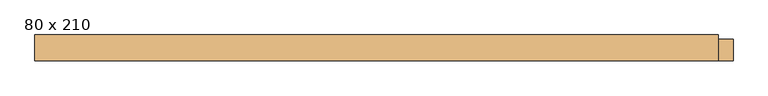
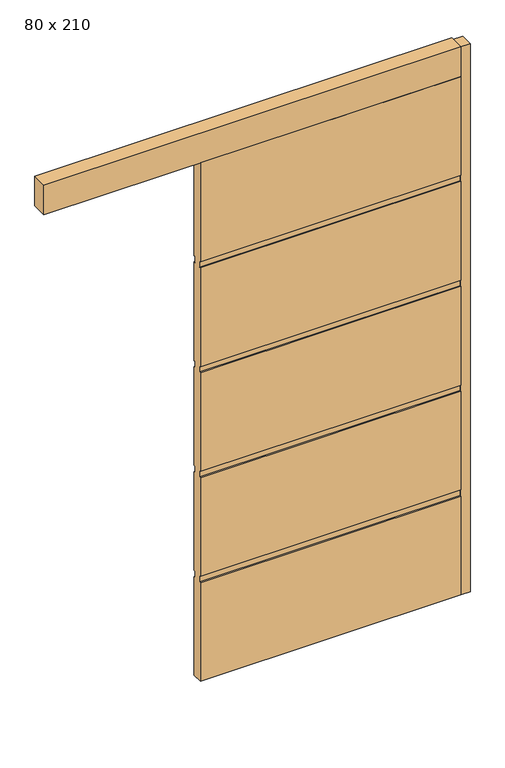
"""IFC4 building model written with IfcOpenShell, lengths in millimetres: door geometry, PORTA DE CORRER EM TRILHO LATERAL - 1 FOLHA : 80 x 210."""

from ifc_helpers import new_model, si_unit, frame, origin, origin_with_axes, place, context, project, spatial, polyline, outline, extrude, source, transform, mapped, element, save


def door_80_x_210_30b18d09(model_context):
    return source(origin(), model_context, "Body", "SweptSolid", [
        extrude(outline(polyline([(115.0, 2100.0), (115.0, 1700.0), (110.0, 1700.0), (110.0, 1675.0), (115.0, 1675.0), (115.0, 1275.0), (110.0, 1275.0), (110.0, 1250.0), (115.0, 1250.0), (115.0, 850.0), (110.0, 850.0), (110.0, 825.0), (115.0, 825.0), (115.0, 425.0), (110.0, 425.0), (110.0, 400.0), (115.0, 400.0), (115.0, 0.0), (75.0, 0.0), (75.0, 400.0), (80.0, 400.0), (80.0, 425.0), (75.0, 425.0), (75.0, 825.0), (80.0, 825.0), (80.0, 850.0), (75.0, 850.0), (75.0, 1250.0), (80.0, 1250.0), (80.0, 1275.0), (75.0, 1275.0), (75.0, 1675.0), (80.0, 1675.0), (80.0, 1700.0), (75.0, 1700.0), (75.0, 2100.0), (115.0, 2100.0)])), frame((-600.0, 0.0, 0.0), z_axis=(1.0, 0.0, 0.0), x_axis=(0.0, 1.0, 0.0)), (0.0, 0.0, 1.0), 1000.0),
        extrude(outline(polyline([(400.0, 135.0), (400.0, 75.0), (-1200.0, 75.0), (-1200.0, 135.0), (400.0, 135.0)])), frame((0.0, 0.0, 2100.0), z_axis=(0.0, 0.0, 1.0), x_axis=(1.0, 0.0, 0.0)), (0.0, 0.0, 1.0), 120.0),
        extrude(outline(polyline([(400.0, 125.0), (435.0, 125.0), (435.0, 75.0), (400.0, 75.0), (400.0, 125.0)])), origin_with_axes(), (0.0, 0.0, 1.0), 2220.0),
    ])


if __name__ == "__main__":
    model = new_model("IFC4")
    model_context = context("Model", 3, world=origin())
    ifc_project = project(units=[si_unit("LENGTHUNIT", "METRE", prefix="MILLI")], contexts=[model_context])
    site = spatial("IfcSite", under=ifc_project)
    building = spatial("IfcBuilding", under=site)
    placement = place(None, origin())
    door_80_x_210_shape = door_80_x_210_30b18d09(model_context)
    element("IfcDoor", 1, ObjectType="PORTA DE CORRER EM TRILHO LATERAL - 1 FOLHA : 80 x 210", at=placement, inside=building, context=model_context, shape_type="MappedRepresentation", body=[
        mapped(door_80_x_210_shape, transform((0.0, 0.0, 0.0), x_axis=(1.0, 0.0, 0.0), y_axis=(0.0, 1.0, 0.0), z_axis=(0.0, 0.0, 1.0))),
    ])
    save(model, "model.ifc")
